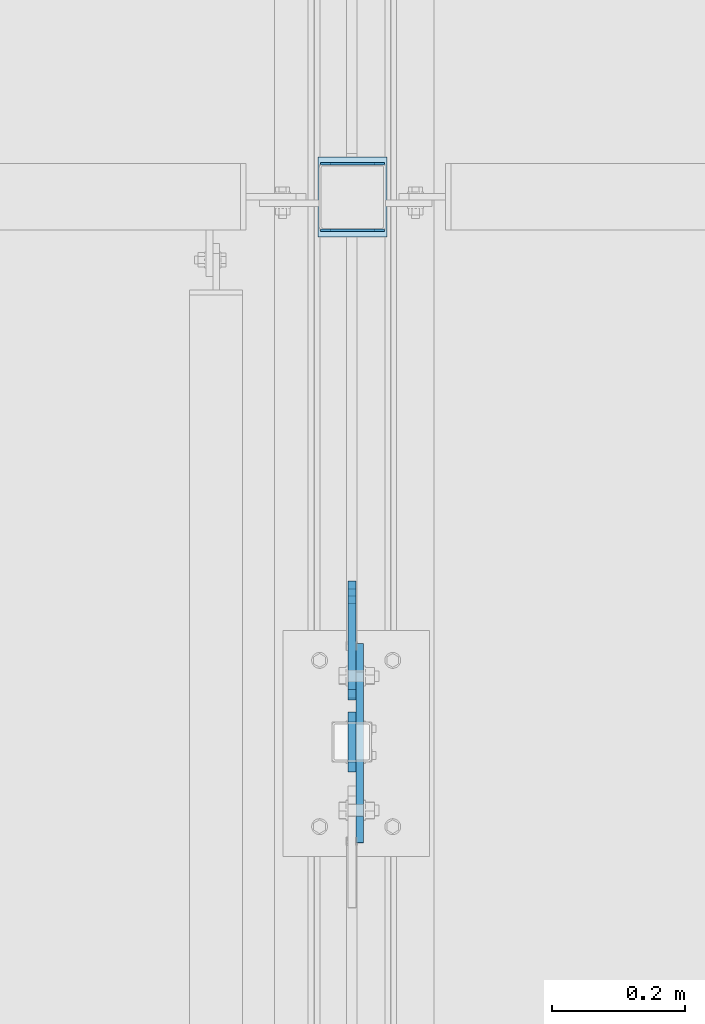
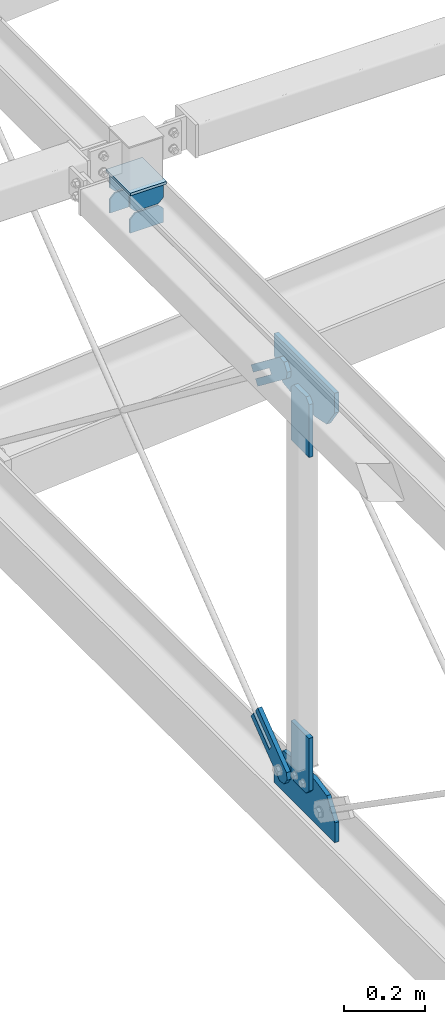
# One storey, part 125 of 271: 11 plates, 5 elements without a shape of their own.
"""IFC2X3 building model written with IfcOpenShell, lengths in millimetres."""

from ifc_helpers import new_model, si_unit, frame, origin_with_axes, place, context, subcontext, project, spatial, polyline, outline, extrude, material, type_object, element, aggregate, save


model = new_model("IFC2X3")

# Units and contexts
model_context = context("Model", 3, precision=1e-05, world=origin_with_axes())
body_context = subcontext(model_context, "Body", "Model", "MODEL_VIEW")
ifc_project = project(units=[si_unit("LENGTHUNIT", "METRE", prefix="MILLI"), si_unit("AREAUNIT", "SQUARE_METRE"), si_unit("VOLUMEUNIT", "CUBIC_METRE"), si_unit("MASSUNIT", "GRAM", prefix="KILO"), si_unit("TIMEUNIT", "SECOND"), si_unit("PLANEANGLEUNIT", "RADIAN"), si_unit("SOLIDANGLEUNIT", "STERADIAN"), si_unit("THERMODYNAMICTEMPERATUREUNIT", "DEGREE_CELSIUS"), si_unit("LUMINOUSINTENSITYUNIT", "LUMEN")], contexts=[model_context])

# Site, building, storey
site_placement = place(None, origin_with_axes())
site = spatial("IfcSite", under=ifc_project, at=site_placement, Name="Undefined", CompositionType="ELEMENT")
building_placement = place(site_placement, origin_with_axes())
building = spatial("IfcBuilding", under=site, at=building_placement, Name="Undefined", CompositionType="ELEMENT")
storey_placement = place(building_placement, origin_with_axes())
storey = spatial("IfcBuildingStorey", under=building, at=storey_placement, Name="Undefined", CompositionType="ELEMENT", Elevation=0.0)

# Assembly, plate
assembly_1_placement = place(storey_placement, origin_with_axes())
assembly_1 = element("IfcElementAssembly", 1, at=assembly_1_placement, inside=storey, AssemblyPlace="NOTDEFINED", PredefinedType="RIGID_FRAME")
ifc_material = material(Name="STEEL/S355JR")
plate_type_1 = type_object("IfcPlateType", Name="BL12*56", PredefinedType="NOTDEFINED")
plate_1_placement = place(assembly_1_placement, frame((6347.37568736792, 2045.35382674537, 19918.240221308), z_axis=(-1.0, 0.0, 1.38777878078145e-17), x_axis=(0.0, -0.130151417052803, 0.991494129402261)))
plate_1 = element("IfcPlate", 2, at=plate_1_placement, type_object=plate_type_1, material=ifc_material, Name="BLACHA", ObjectType="BL12*56", context=body_context, shape_type="SweptSolid", body=[
    extrude(outline(polyline([(0.0, 0.0), (21.2132034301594, 1.09139364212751e-11), (39.5979804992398, 18.3847751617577), (39.5979804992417, 39.5979804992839), (-86.9741363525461, 166.170089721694), (-100.762718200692, 152.381515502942), (-30.0520401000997, 81.670829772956), (-42.0728530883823, 69.6500167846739), (-112.783531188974, 140.36070251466), (-126.57211303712, 126.57211303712), (0.0, 0.0)])), frame((0.0, 0.0, -6.0), z_axis=(0.0, 0.0, 1.0), x_axis=(1.0, 0.0, 0.0)), (0.0, 0.0, 1.0), 12.0),
])
aggregate(assembly_1, [plate_1])

assembly_2_placement = place(storey_placement, origin_with_axes())
assembly_2 = element("IfcElementAssembly", 3, at=assembly_2_placement, inside=storey, AssemblyPlace="NOTDEFINED", PredefinedType="RIGID_FRAME")
plate_2_placement = place(assembly_2_placement, frame((6347.37568736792, 2079.46125691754, 18686.0448826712), z_axis=(-1.0, 0.0, 1.38777878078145e-17), x_axis=(0.0, -0.991494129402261, 0.130151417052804)))
plate_2 = element("IfcPlate", 4, at=plate_2_placement, type_object=plate_type_1, material=ifc_material, Name="BLACHA", ObjectType="BL12*56", context=body_context, shape_type="SweptSolid", body=[
    extrude(outline(polyline([(0.0, 0.0), (21.2132034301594, 1.09139364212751e-11), (39.5979804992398, 18.3847751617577), (39.5979804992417, 39.5979804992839), (-86.9741363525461, 166.170089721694), (-100.762718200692, 152.381515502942), (-30.0520401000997, 81.670829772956), (-42.0728530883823, 69.6500167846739), (-112.783531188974, 140.36070251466), (-126.57211303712, 126.57211303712), (0.0, 0.0)])), frame((0.0, 0.0, -6.0), z_axis=(0.0, 0.0, 1.0), x_axis=(1.0, 0.0, 0.0)), (0.0, 0.0, 1.0), 12.0),
])
aggregate(assembly_2, [plate_2])

assembly_3_placement = place(storey_placement, origin_with_axes())
assembly_3 = element("IfcElementAssembly", 5, at=assembly_3_placement, inside=storey, AssemblyPlace="NOTDEFINED", PredefinedType="RIGID_FRAME")
plate_type_2 = type_object("IfcPlateType", Name="BL8*104", PredefinedType="NOTDEFINED")
plate_3_placement = place(assembly_3_placement, frame((6400.37568736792, 2858.92439872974, 20068.3499999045), z_axis=(0.0, 0.0, 1.0), x_axis=(-1.0, 0.0, 1.38777878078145e-17)))
plate_3 = element("IfcPlate", 6, at=plate_3_placement, type_object=plate_type_2, material=ifc_material, Name="BLACHA", ObjectType="BL8*104", context=body_context, shape_type="SweptSolid", body=[
    extrude(outline(polyline([(0.0, 0.0), (104.0, 0.0), (104.0, 120.0), (0.0, 120.0), (0.0, 0.0)])), frame((0.0, 0.0, -4.0), z_axis=(0.0, 0.0, 1.0), x_axis=(1.0, 0.0, 0.0)), (0.0, 0.0, 1.0), 8.0),
])

# Assembly, plates
assembly_4_placement = place(storey_placement, origin_with_axes())
assembly_4 = element("IfcElementAssembly", 7, at=assembly_4_placement, inside=storey, AssemblyPlace="NOTDEFINED", PredefinedType="RIGID_FRAME")
plate_type_3 = type_object("IfcPlateType", Name="BL12*90", PredefinedType="NOTDEFINED")
plate_4_placement = place(assembly_4_placement, frame((6347.37568736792, 1934.19355050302, 19906.8242735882), z_axis=(-1.0, 0.0, 1.38777878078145e-17), x_axis=(0.0, 0.707106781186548, 0.707106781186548)))
plate_4 = element("IfcPlate", 8, at=plate_4_placement, type_object=plate_type_3, material=ifc_material, Name="BLACHA", ObjectType="BL12*90", context=body_context, shape_type="SweptSolid", body=[
    extrude(outline(polyline([(0.0, 0.0), (21.2132034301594, 1.09139364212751e-11), (63.6396102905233, 42.4264068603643), (63.6396102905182, 63.6396102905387), (-48.7903671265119, 176.069595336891), (-59.0434150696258, 165.816543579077), (-102.176933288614, 122.683029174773), (-112.42997741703, 112.429977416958), (0.0, 0.0)])), frame((0.0, 0.0, -6.0), z_axis=(0.0, 0.0, 1.0), x_axis=(1.0, 0.0, 0.0)), (0.0, 0.0, 1.0), 12.0),
])
plate_5_placement = place(assembly_4_placement, frame((6347.37568736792, 2024.19355050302, 18742.099999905), z_axis=(-1.0, 0.0, 1.38777878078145e-17), x_axis=(0.0, -0.707106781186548, -0.707106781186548)))
plate_5 = element("IfcPlate", 9, at=plate_5_placement, type_object=plate_type_3, material=ifc_material, Name="BLACHA", ObjectType="BL12*90", context=body_context, shape_type="SweptSolid", body=[
    extrude(outline(polyline([(0.0, 0.0), (21.2132034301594, 1.09139364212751e-11), (63.6396102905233, 42.4264068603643), (63.6396102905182, 63.6396102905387), (-48.7903671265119, 176.069595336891), (-59.0434150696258, 165.816543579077), (-102.176933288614, 122.683029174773), (-112.42997741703, 112.429977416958), (0.0, 0.0)])), frame((0.0, 0.0, -6.0), z_axis=(0.0, 0.0, 1.0), x_axis=(1.0, 0.0, 0.0)), (0.0, 0.0, 1.0), 12.0),
])
aggregate(assembly_4, [plate_4, plate_5])

# Plate
plate_type_4 = type_object("IfcPlateType", Name="BL12*130", PredefinedType="NOTDEFINED")
plate_6_placement = place(assembly_3_placement, frame((6359.37568736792, 1827.95564754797, 20001.8499999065), z_axis=(-1.0, 0.0, 1.38777878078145e-17), x_axis=(0.0, 1.0, 0.0)))
plate_6 = element("IfcPlate", 10, at=plate_6_placement, type_object=plate_type_4, material=ifc_material, Name="BLACHA", ObjectType="BL12*130", context=body_context, shape_type="SweptSolid", body=[
    extrude(outline(polyline([(0.0, 0.0), (299.390808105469, 5.6843418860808e-14), (299.390808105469, 67.1413879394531), (256.756530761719, 122.660011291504), (201.237899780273, 130.025726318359), (101.237899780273, 130.025726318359), (39.9332084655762, 117.425285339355), (0.0, 59.9332084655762), (0.0, 0.0)])), frame((0.0, 0.0, -6.0), z_axis=(0.0, 0.0, 1.0), x_axis=(1.0, 0.0, 0.0)), (0.0, 0.0, 1.0), 12.0),
])

# Assembly, plate
assembly_5_placement = place(storey_placement, origin_with_axes())
assembly_5 = element("IfcElementAssembly", 11, at=assembly_5_placement, inside=storey, AssemblyPlace="NOTDEFINED", PredefinedType="RIGID_FRAME")
plate_7_placement = place(assembly_5_placement, frame((6359.37568736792, 2127.34646164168, 18647.099999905), z_axis=(-1.0, 0.0, 1.38777878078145e-17), x_axis=(0.0, -1.0, 0.0)))
plate_7 = element("IfcPlate", 12, at=plate_7_placement, type_object=plate_type_4, material=ifc_material, Name="BLACHA", ObjectType="BL12*130", context=body_context, shape_type="SweptSolid", body=[
    extrude(outline(polyline([(0.0, 0.0), (299.750732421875, 0.0), (299.750732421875, 59.9332084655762), (259.817535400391, 117.425285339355), (197.033111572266, 130.0), (99.843391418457, 130.0), (42.6342887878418, 122.410011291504), (0.0, 66.8913879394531), (0.0, 0.0)])), frame((0.0, 0.0, -6.0), z_axis=(0.0, 0.0, 1.0), x_axis=(1.0, 0.0, 0.0)), (0.0, 0.0, 1.0), 12.0),
])
aggregate(assembly_5, [plate_7])

# Plate
plate_type_5 = type_object("IfcPlateType", Name="BL4*57", PredefinedType="NOTDEFINED")
plate_8_placement = place(assembly_3_placement, frame((6300.37568709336, 2748.92439872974, 19945.3499999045), z_axis=(0.0, 1.0, 0.0), x_axis=(0.0, 0.0, 1.0)))
plate_8 = element("IfcPlate", 13, at=plate_8_placement, type_object=plate_type_5, material=ifc_material, Name="BLACHA", ObjectType="BL4*57", context=body_context, shape_type="SweptSolid", body=[
    extrude(outline(polyline([(0.0, 0.0), (41.5, 0.0), (56.5, 15.0), (56.5, 81.0), (41.5, 96.0), (0.0, 96.0), (0.0, 0.0)])), frame((0.0, 0.0, -2.0), z_axis=(0.0, 0.0, 1.0), x_axis=(1.0, 0.0, 0.0)), (0.0, 0.0, 1.0), 4.0),
])

plate_9_placement = place(assembly_3_placement, frame((6300.37568709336, 2748.92439872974, 20006.8499999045), z_axis=(0.0, 1.0, 0.0), x_axis=(0.0, 0.0, 1.0)))
plate_9 = element("IfcPlate", 14, at=plate_9_placement, type_object=plate_type_5, material=ifc_material, Name="BLACHA", ObjectType="BL4*57", context=body_context, shape_type="SweptSolid", body=[
    extrude(outline(polyline([(0.0, 15.0), (15.0, -1.59872115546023e-14), (56.5, -1.77635683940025e-14), (56.5, 96.0000000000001), (15.0, 96.0000000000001), (0.0, 81.0000000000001), (0.0, 15.0)])), frame((0.0, 0.0, -2.0), z_axis=(0.0, 0.0, 1.0), x_axis=(1.0, 0.0, 0.0)), (0.0, 0.0, 1.0), 4.0),
])

plate_10_placement = place(assembly_3_placement, frame((6300.37568709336, 2848.92439872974, 19945.3499999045), z_axis=(0.0, 1.0, 0.0), x_axis=(0.0, 0.0, 1.0)))
plate_10 = element("IfcPlate", 15, at=plate_10_placement, type_object=plate_type_5, material=ifc_material, Name="BLACHA", ObjectType="BL4*57", context=body_context, shape_type="SweptSolid", body=[
    extrude(outline(polyline([(0.0, 0.0), (41.5, 0.0), (56.5, 15.0), (56.5, 81.0), (41.5, 96.0), (0.0, 96.0), (0.0, 0.0)])), frame((0.0, 0.0, -2.0), z_axis=(0.0, 0.0, 1.0), x_axis=(1.0, 0.0, 0.0)), (0.0, 0.0, 1.0), 4.0),
])

plate_11_placement = place(assembly_3_placement, frame((6300.37568709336, 2848.92439872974, 20006.8499999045), z_axis=(0.0, 1.0, 0.0), x_axis=(0.0, 0.0, 1.0)))
plate_11 = element("IfcPlate", 16, at=plate_11_placement, type_object=plate_type_5, material=ifc_material, Name="BLACHA", ObjectType="BL4*57", context=body_context, shape_type="SweptSolid", body=[
    extrude(outline(polyline([(0.0, 15.0), (15.0, -1.59872115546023e-14), (56.5, -1.77635683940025e-14), (56.5, 96.0000000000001), (15.0, 96.0000000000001), (0.0, 81.0000000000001), (0.0, 15.0)])), frame((0.0, 0.0, -2.0), z_axis=(0.0, 0.0, 1.0), x_axis=(1.0, 0.0, 0.0)), (0.0, 0.0, 1.0), 4.0),
])

aggregate(assembly_3, [plate_6, plate_8, plate_9, plate_10, plate_11, plate_3])

save(model, "model.ifc")
